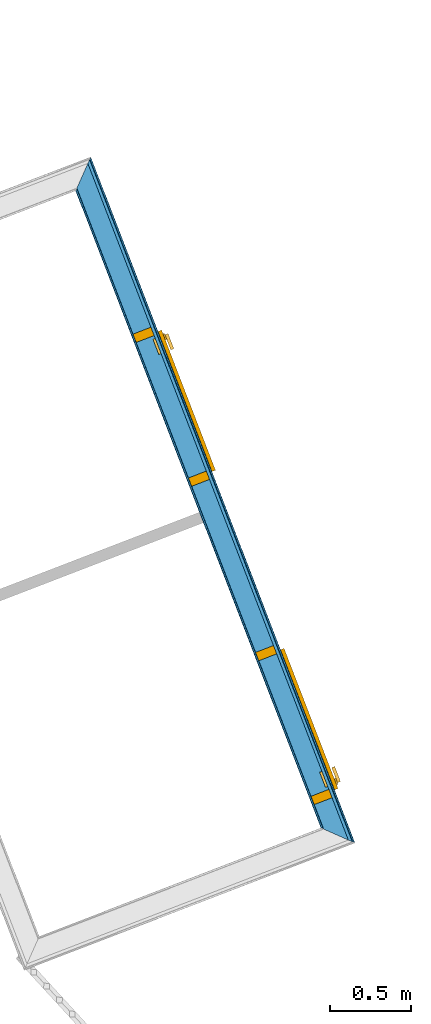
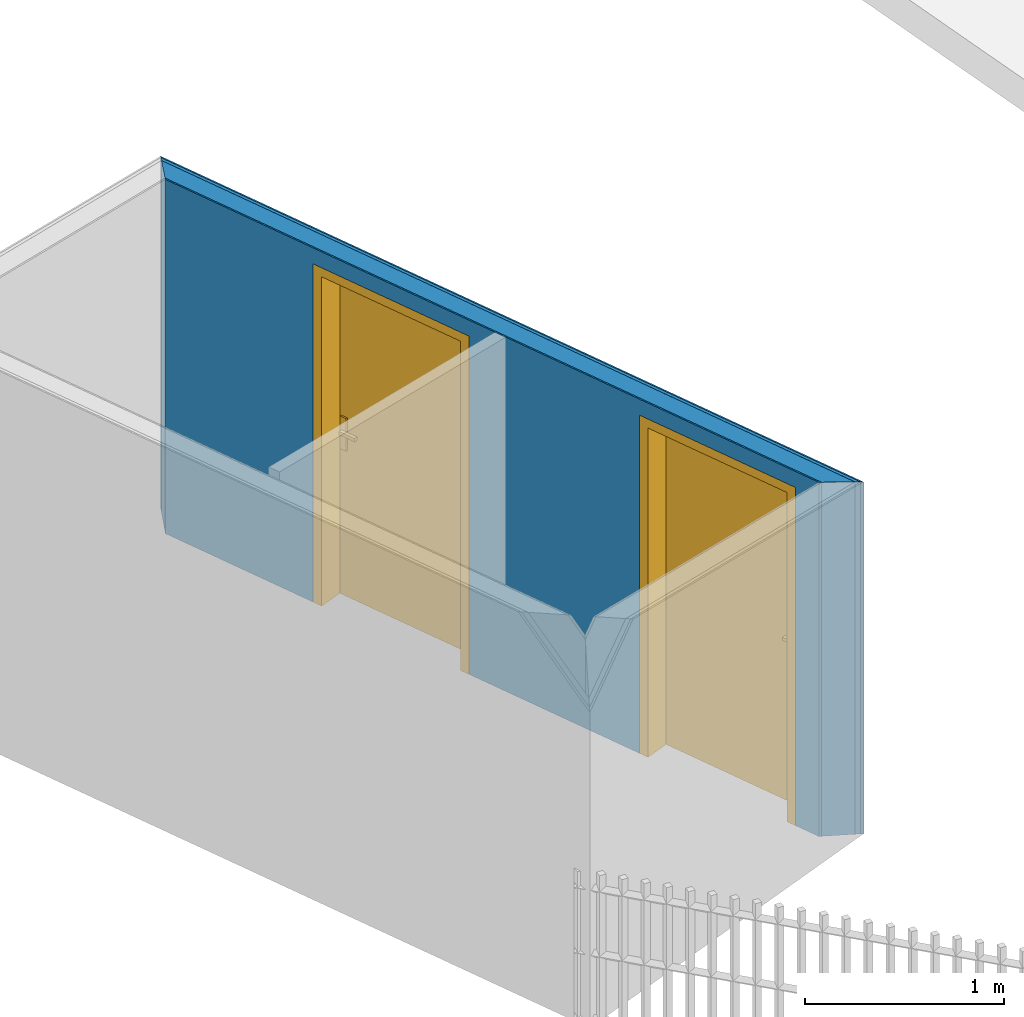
# One storey, part 117 of 195: 4 building element parts, 2 doors, 2 openings, 1 element without a shape of its own.
"""IFC2X3 building model written with IfcOpenShell, lengths in metres."""

from ifc_helpers import new_model, entity, si_unit, converted_unit, derived_unit, money_unit, direction, frame, origin_with_axes, origin_2d_with_axis, place, context, subcontext, project, spatial, polyline, rectangle, outline, extrude, boolean, faceted_brep, source, transform, mapped, material, type_object, element, fill, aggregate, save


model = new_model("IFC2X3")

# Units and contexts
model_context = context("Model", 3, precision=1e-05, world=origin_with_axes(), true_north=direction((0.0, 1.0)))
body_context = subcontext(model_context, "Body", "Model", "MODEL_VIEW")
ifc_project = project(units=[si_unit("LENGTHUNIT", "METRE"), si_unit("AREAUNIT", "SQUARE_METRE"), si_unit("VOLUMEUNIT", "CUBIC_METRE"), converted_unit("PLANEANGLEUNIT", "DEGREE", entity("IfcPlaneAngleMeasure", 0.0174532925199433), si_unit("PLANEANGLEUNIT", "RADIAN"), dimensions=[0, 0, 0, 0, 0, 0, 0]), money_unit("CHF"), converted_unit("TIMEUNIT", "Year", entity("IfcTimeMeasure", 31557600.0), si_unit("TIMEUNIT", "SECOND"), dimensions=[0, 0, 1, 0, 0, 0, 0]), si_unit("MASSUNIT", "GRAM", prefix="KILO"), si_unit("THERMODYNAMICTEMPERATUREUNIT", "DEGREE_CELSIUS"), si_unit("LUMINOUSINTENSITYUNIT", "LUMEN"), si_unit("ENERGYUNIT", "JOULE", prefix="MEGA"), derived_unit("THERMALCONDUCTANCEUNIT", [(si_unit("POWERUNIT", "WATT"), 1), (si_unit("LENGTHUNIT", "METRE"), -1), (si_unit("THERMODYNAMICTEMPERATUREUNIT", "KELVIN"), -1)]), derived_unit("SPECIFICHEATCAPACITYUNIT", [(si_unit("ENERGYUNIT", "JOULE"), 1), (si_unit("MASSUNIT", "GRAM", prefix="KILO"), -1), (si_unit("THERMODYNAMICTEMPERATUREUNIT", "KELVIN"), -1)]), derived_unit("MASSDENSITYUNIT", [(si_unit("MASSUNIT", "GRAM", prefix="KILO"), 1), (si_unit("VOLUMEUNIT", "CUBIC_METRE"), -1)])], contexts=[model_context])

# Site, building, storey
site_placement = place(None, origin_with_axes())
site = spatial("IfcSite", under=ifc_project, at=site_placement, Name="Site", CompositionType="ELEMENT")
building_placement = place(site_placement, origin_with_axes())
building = spatial("IfcBuilding", under=site, at=building_placement, Name="Bâtiment", CompositionType="ELEMENT")
storey_placement = place(building_placement, origin_with_axes())
storey = spatial("IfcBuildingStorey", under=building, at=storey_placement, Name="rdc", CompositionType="ELEMENT", Elevation=0.0)

# Door
door_style = type_object("IfcDoorStyle", Name="Porte_1v", ConstructionType="NOTDEFINED", OperationType="NOTDEFINED", ParameterTakesPrecedence=False, Sizeable=False)
shared_shape_1 = source(origin_with_axes(), body_context, "Body", "Brep", [
    faceted_brep([(0.505, 0.0, 0.0), (0.465, 0.0, 0.0), (0.465, 0.0, 2.04), (-0.465, 0.0, 2.04), (-0.465, 0.0, 0.0), (-0.505, 0.0, 0.0), (-0.505, 0.0, 2.08), (0.505, 0.0, 2.08), (0.505, -0.16, 0.0), (0.45, -0.16, 0.0), (0.45, -0.015, 0.0), (0.465, -0.015, 0.0), (0.465, -0.015, 2.04), (-0.465, -0.015, 2.04), (-0.465, -0.015, 0.0), (-0.45, -0.015, 0.0), (-0.45, -0.16, 0.0), (-0.505, -0.16, 0.0), (-0.505, -0.16, 2.08), (0.505, -0.16, 2.08), (-0.45, -0.16, 2.025), (0.45, -0.16, 2.025), (0.45, -0.015, 2.025), (-0.45, -0.015, 2.025)], [[[0, 1, 2, 3, 4, 5, 6, 7]], [[0, 8, 9, 10, 11, 1]], [[1, 11, 12, 2]], [[2, 12, 13, 3]], [[3, 13, 14, 4]], [[5, 4, 14, 15, 16, 17]], [[18, 6, 5, 17]], [[19, 7, 6, 18]], [[8, 0, 7, 19]], [[9, 8, 19, 18, 17, 16, 20, 21]], [[10, 9, 21, 22]], [[11, 10, 22, 23, 15, 14, 13, 12]], [[23, 20, 16, 15]], [[22, 21, 20, 23]]]),
    faceted_brep([(-0.4, -0.015, 0.9), (-0.44, -0.015, 0.9), (-0.44, -0.015, 1.1), (-0.4, -0.015, 1.1), (-0.4, -0.025, 0.9), (-0.44, -0.025, 0.9), (-0.44, -0.025, 1.1), (-0.4, -0.025, 1.1)], [[[0, 1, 2, 3]], [[1, 0, 4, 5]], [[2, 1, 5, 6]], [[3, 2, 6, 7]], [[0, 3, 7, 4]], [[5, 4, 7, 6]]]),
    faceted_brep([(-0.33, -0.025, 1.0), (-0.43, -0.025, 1.0), (-0.43, -0.025, 1.02), (-0.33, -0.025, 1.02), (-0.33, -0.045, 1.0), (-0.43, -0.045, 1.0), (-0.43, -0.045, 1.02), (-0.33, -0.045, 1.02)], [[[0, 1, 2, 3]], [[1, 0, 4, 5]], [[2, 1, 5, 6]], [[3, 2, 6, 7]], [[0, 3, 7, 4]], [[5, 4, 7, 6]]]),
    faceted_brep([(-0.4, 0.035, 0.9), (-0.44, 0.035, 0.9), (-0.44, 0.035, 1.1), (-0.4, 0.035, 1.1), (-0.4, 0.025, 0.9), (-0.44, 0.025, 0.9), (-0.44, 0.025, 1.1), (-0.4, 0.025, 1.1)], [[[0, 1, 2, 3]], [[1, 0, 4, 5]], [[2, 1, 5, 6]], [[3, 2, 6, 7]], [[0, 3, 7, 4]], [[5, 4, 7, 6]]]),
    faceted_brep([(-0.33, 0.05500000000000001, 1.0), (-0.43, 0.05500000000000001, 1.0), (-0.43, 0.05500000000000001, 1.02), (-0.33, 0.05500000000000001, 1.02), (-0.33, 0.035, 1.0), (-0.43, 0.035, 1.0), (-0.43, 0.035, 1.02), (-0.33, 0.035, 1.02)], [[[0, 1, 2, 3]], [[1, 0, 4, 5]], [[2, 1, 5, 6]], [[3, 2, 6, 7]], [[0, 3, 7, 4]], [[5, 4, 7, 6]]]),
    faceted_brep([(-0.465, 0.025, 0.0), (0.465, 0.025, 0.0), (0.465, -0.015, 0.0), (-0.465, -0.015, 0.0), (-0.465, 0.025, 2.04), (0.465, 0.025, 2.04), (0.465, -0.015, 2.04), (-0.465, -0.015, 2.04)], [[[0, 1, 2, 3]], [[0, 4, 5, 1]], [[1, 5, 6, 2]], [[3, 2, 6, 7]], [[4, 0, 3, 7]], [[5, 4, 7, 6]]]),
])
wall_placement = place(storey_placement, frame((9573.983056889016, -1034.756331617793, 57.7), z_axis=(0.0, 0.0, 1.0), x_axis=(0.3593252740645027, -0.9332123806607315, 0.0)))
opening_1_placement = place(wall_placement, frame((1.622741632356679, 0.0, 0.0), z_axis=(0.0, 0.0, 1.0), x_axis=(1.0, 0.0, 0.0)))
door_1_placement = place(opening_1_placement, frame((-0.4650000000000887, 0.0, 0.0), z_axis=(0.0, 0.0, 1.0), x_axis=(1.0, 0.0, 0.0)))
door_1 = element("IfcDoor", 1, at=door_1_placement, inside=storey, type_object=door_style, Name="Por-300", OverallHeight=2.04, OverallWidth=0.93, context=body_context, shape_type="MappedRepresentation", body=[
    mapped(shared_shape_1, transform((0.4649999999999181, 0.0, 0.0))),
])

shared_shape_2 = source(origin_with_axes(), body_context, "Body", "Brep", [
    faceted_brep([(-0.505, 0.0, 0.0), (-0.505, 0.0, 2.08), (0.505, 0.0, 2.08), (0.505, 0.0, 0.0), (0.465, 0.0, 0.0), (0.465, 0.0, 2.04), (-0.465, 0.0, 2.04), (-0.465, 0.0, 0.0), (-0.505, -0.16, 0.0), (-0.505, -0.16, 2.08), (0.505, -0.16, 2.08), (0.505, -0.16, 0.0), (0.45, -0.16, 0.0), (0.45, -0.015, 0.0), (0.465, -0.015, 0.0), (0.465, -0.015, 2.04), (-0.465, -0.015, 2.04), (-0.465, -0.015, 0.0), (-0.45, -0.015, 0.0), (-0.45, -0.16, 0.0), (-0.45, -0.16, 2.025), (0.45, -0.16, 2.025), (0.45, -0.015, 2.025), (-0.45, -0.015, 2.025)], [[[0, 1, 2, 3, 4, 5, 6, 7]], [[8, 9, 1, 0]], [[9, 10, 2, 1]], [[10, 11, 3, 2]], [[3, 11, 12, 13, 14, 4]], [[5, 4, 14, 15]], [[6, 5, 15, 16]], [[7, 6, 16, 17]], [[0, 7, 17, 18, 19, 8]], [[19, 20, 21, 12, 11, 10, 9, 8]], [[22, 13, 12, 21]], [[17, 16, 15, 14, 13, 22, 23, 18]], [[18, 23, 20, 19]], [[23, 22, 21, 20]]]),
    faceted_brep([(0.4, -0.015, 0.9), (0.4, -0.015, 1.1), (0.44, -0.015, 1.1), (0.44, -0.015, 0.9), (0.4, -0.025, 0.9), (0.4, -0.025, 1.1), (0.44, -0.025, 1.1), (0.44, -0.025, 0.9)], [[[0, 1, 2, 3]], [[0, 4, 5, 1]], [[1, 5, 6, 2]], [[2, 6, 7, 3]], [[3, 7, 4, 0]], [[7, 6, 5, 4]]]),
    faceted_brep([(0.33, -0.025, 1.0), (0.33, -0.025, 1.02), (0.43, -0.025, 1.02), (0.43, -0.025, 1.0), (0.33, -0.045, 1.0), (0.33, -0.045, 1.02), (0.43, -0.045, 1.02), (0.43, -0.045, 1.0)], [[[0, 1, 2, 3]], [[0, 4, 5, 1]], [[1, 5, 6, 2]], [[2, 6, 7, 3]], [[3, 7, 4, 0]], [[7, 6, 5, 4]]]),
    faceted_brep([(0.4, 0.035, 0.9), (0.4, 0.035, 1.1), (0.44, 0.035, 1.1), (0.44, 0.035, 0.9), (0.4, 0.025, 0.9), (0.4, 0.025, 1.1), (0.44, 0.025, 1.1), (0.44, 0.025, 0.9)], [[[0, 1, 2, 3]], [[0, 4, 5, 1]], [[1, 5, 6, 2]], [[2, 6, 7, 3]], [[3, 7, 4, 0]], [[7, 6, 5, 4]]]),
    faceted_brep([(0.33, 0.05500000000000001, 1.0), (0.33, 0.05500000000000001, 1.02), (0.43, 0.05500000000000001, 1.02), (0.43, 0.05500000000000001, 1.0), (0.33, 0.035, 1.0), (0.33, 0.035, 1.02), (0.43, 0.035, 1.02), (0.43, 0.035, 1.0)], [[[0, 1, 2, 3]], [[0, 4, 5, 1]], [[1, 5, 6, 2]], [[2, 6, 7, 3]], [[3, 7, 4, 0]], [[7, 6, 5, 4]]]),
    faceted_brep([(0.465, 0.025, 0.0), (0.465, -0.015, 0.0), (-0.465, -0.015, 0.0), (-0.465, 0.025, 0.0), (0.465, 0.025, 2.04), (0.465, -0.015, 2.04), (-0.465, -0.015, 2.04), (-0.465, 0.025, 2.04)], [[[0, 1, 2, 3]], [[4, 5, 1, 0]], [[1, 5, 6, 2]], [[3, 2, 6, 7]], [[0, 3, 7, 4]], [[7, 6, 5, 4]]]),
])
opening_2_placement = place(wall_placement, frame((3.73589077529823, 0.0, 0.0), z_axis=(0.0, 0.0, 1.0), x_axis=(1.0, 0.0, 0.0)))
door_2_placement = place(opening_2_placement, frame((-0.4650000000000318, 0.0, 0.0), z_axis=(0.0, 0.0, 1.0), x_axis=(1.0, 0.0, 0.0)))
door_2 = element("IfcDoor", 2, at=door_2_placement, inside=storey, type_object=door_style, Name="Por-300", OverallHeight=2.04, OverallWidth=0.93, context=body_context, shape_type="MappedRepresentation", body=[
    mapped(shared_shape_2, transform((0.4649999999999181, 0.0, 0.0))),
])

# Wall, opening
wall_type = type_object("IfcWallType", Name="1/Ossatur bois 160   non isol 160", PredefinedType="NOTDEFINED")
wall = element("IfcWall", 3, at=wall_placement, inside=storey, type_object=wall_type, Name="Mur-110")
opening_1 = element("IfcOpeningElement", 4, at=opening_1_placement, cuts=wall, Name="Por-300", context=body_context, shape_type="SweptSolid", body=[
    extrude(rectangle(XDim=1.01000001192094, YDim=2.079999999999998, at=origin_2d_with_axis()), frame((5.960487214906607e-09, -0.1599999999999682, 1.039999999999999), z_axis=(0.0, 1.0, 0.0), x_axis=(1.0, 0.0, 0.0)), (0.0, 0.0, 1.0), 0.32),
])

fill(opening_1, door_1)

# Opening
opening_2 = element("IfcOpeningElement", 5, at=opening_2_placement, cuts=wall, Name="Por-300", context=body_context, shape_type="SweptSolid", body=[
    extrude(rectangle(XDim=1.01000001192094, YDim=2.079999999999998, at=origin_2d_with_axis()), frame((-5.960430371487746e-09, -0.1599999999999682, 1.039999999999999), z_axis=(0.0, -1.0, 0.0), x_axis=(-1.0, 0.0, 0.0)), (0.0, 0.0, -1.0), 0.32),
])

fill(opening_2, door_2)

# Building element part
ifc_material_1 = material(Name="Sans Trame 296962763")
building_element_part_1_placement = place(wall_placement, origin_with_axes())
building_element_part_1 = element("IfcBuildingElementPart", 6, at=building_element_part_1_placement, material=ifc_material_1, Name="Sans Trame 296962763", context=body_context, shape_type="CSG", body=[
    boolean("DIFFERENCE", boolean("DIFFERENCE", boolean("DIFFERENCE", boolean("DIFFERENCE", extrude(outline(polyline([(0.0, -0.1599999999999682), (4.552099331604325, -0.1599999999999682), (4.552099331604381, -0.1499999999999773), (0.0, -0.1499999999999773), (0.0, -0.1599999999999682)])), origin_with_axes(), (0.0, 0.0, 1.0), 2.75), faceted_brep([(0.1500000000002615, -0.1499999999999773, 2.177348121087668), (0.1500000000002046, -0.1499999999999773, 0.0), (0.0, -0.1499999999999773, 0.0), (0.0, -0.1499999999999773, 2.75), (4.552099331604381, -0.1499999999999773, 2.75), (4.552099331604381, -0.1499999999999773, 0.0), (4.402099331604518, -0.1499999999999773, 0.0), (4.402099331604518, -0.1499999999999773, 2.177348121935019), (0.160000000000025, -0.1599999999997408, 2.17822300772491), (0.160000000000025, -0.1599999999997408, 0.0), (0.0, -0.1599999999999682, 0.0), (0.0, -0.1599999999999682, 2.75), (4.552099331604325, -0.1599999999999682, 2.75), (4.552099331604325, -0.1599999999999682, 0.0), (4.392099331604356, -0.1600000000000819, 0.0), (4.392099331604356, -0.1600000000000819, 2.178223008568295)], [[[0, 1, 2, 3, 4, 5, 6, 7]], [[1, 0, 8, 9]], [[1, 9, 10, 2]], [[3, 2, 10, 11]], [[3, 11, 12, 4]], [[12, 13, 5, 4]], [[14, 6, 5, 13]], [[7, 6, 14, 15]], [[0, 7, 15, 8]], [[15, 14, 13, 12, 11, 10, 9, 8]]])), faceted_brep([(0.03000000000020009, -0.02999999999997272, 2.166849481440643), (0.03000000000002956, -0.0300000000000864, 0.0), (0.0, -0.02999999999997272, 0.0), (0.0, -0.02999999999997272, 2.75), (4.552099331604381, -0.02999999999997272, 2.75), (4.552099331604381, -0.02999999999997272, 0.0), (4.522099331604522, -0.02999999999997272, 0.0), (4.522099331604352, -0.02999999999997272, 2.16684948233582), (0.1500000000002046, -0.1499999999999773, 2.177348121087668), (0.1500000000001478, -0.1499999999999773, 0.0), (0.0, -0.1499999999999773, 0.0), (0.0, -0.1499999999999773, 2.75), (4.552099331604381, -0.1499999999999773, 2.75), (4.552099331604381, -0.1499999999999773, 0.0), (4.402099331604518, -0.1499999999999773, 0.0), (4.402099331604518, -0.1499999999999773, 2.177348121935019)], [[[0, 1, 2, 3, 4, 5, 6, 7]], [[1, 0, 8, 9]], [[1, 9, 10, 2]], [[3, 2, 10, 11]], [[3, 11, 12, 4]], [[12, 13, 5, 4]], [[14, 6, 5, 13]], [[7, 6, 14, 15]], [[0, 7, 15, 8]], [[15, 14, 13, 12, 11, 10, 9, 8]]])), faceted_brep([(0.01000000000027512, -0.009999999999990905, 2.165099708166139), (0.01000000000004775, -0.009999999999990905, 0.0), (0.0, -0.009999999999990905, 0.0), (0.0, -0.009999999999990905, 2.75), (4.552099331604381, -0.009999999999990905, 2.75), (4.552099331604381, -0.009999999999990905, 0.0), (4.542099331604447, -0.009999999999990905, 0.0), (4.542099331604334, -0.009999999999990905, 2.165099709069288), (0.03000000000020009, -0.02999999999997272, 2.166849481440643), (0.03000000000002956, -0.0300000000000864, 0.0), (0.0, -0.02999999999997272, 0.0), (0.0, -0.02999999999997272, 2.75), (4.552099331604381, -0.02999999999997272, 2.75), (4.552099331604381, -0.02999999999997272, 0.0), (4.522099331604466, -0.02999999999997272, 0.0), (4.522099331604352, -0.02999999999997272, 2.16684948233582)], [[[0, 1, 2, 3, 4, 5, 6, 7]], [[1, 0, 8, 9]], [[1, 9, 10, 2]], [[3, 2, 10, 11]], [[3, 11, 12, 4]], [[12, 13, 5, 4]], [[14, 6, 5, 13]], [[7, 6, 14, 15]], [[0, 7, 15, 8]], [[15, 14, 13, 12, 11, 10, 9, 8]]])), faceted_brep([(4.552099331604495, 0.0, 0.0), (4.552099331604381, 0.0, 2.164224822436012), (4.552099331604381, 0.0, 2.75), (4.552099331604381, -0.009999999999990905, 2.75), (4.552099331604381, -0.009999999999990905, 0.0), (4.542099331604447, -0.009999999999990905, 0.0), (4.542099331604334, -0.009999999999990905, 2.165099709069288), (0.0, 0.0, 2.164224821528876), (0.0, 0.0, 2.75), (0.0, -0.009999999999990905, 2.75), (0.0, -0.009999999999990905, 0.0), (0.01000000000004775, -0.009999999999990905, 0.0), (0.01000000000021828, -0.009999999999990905, 2.165099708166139), (0.0, 0.0, 0.0)], [[[0, 1, 2, 3, 4]], [[1, 0, 5, 6]], [[1, 7, 8, 2]], [[8, 9, 3, 2]], [[6, 5, 4, 3, 9, 10, 11, 12]], [[5, 0, 4]], [[7, 1, 6, 12]], [[7, 13, 10, 9, 8]], [[13, 11, 10]], [[13, 7, 12, 11]]])),
])

ifc_material_2 = material(Name="Lame d'air 323202302")
building_element_part_2_placement = place(wall_placement, origin_with_axes())
building_element_part_2 = element("IfcBuildingElementPart", 7, at=building_element_part_2_placement, material=ifc_material_2, Name="Lame d'air 323202302", context=body_context, shape_type="CSG", body=[
    boolean("DIFFERENCE", boolean("DIFFERENCE", boolean("DIFFERENCE", boolean("DIFFERENCE", extrude(outline(polyline([(0.0, -0.02999999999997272), (4.552099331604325, -0.02999999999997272), (4.552099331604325, -0.009999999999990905), (0.0, -0.009999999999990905), (0.0, -0.02999999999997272)])), origin_with_axes(), (0.0, 0.0, 1.0), 2.75), faceted_brep([(0.1500000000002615, -0.1499999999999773, 2.177348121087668), (0.1500000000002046, -0.1499999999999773, 0.0), (0.0, -0.1499999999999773, 0.0), (0.0, -0.1499999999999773, 2.75), (4.552099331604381, -0.1499999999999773, 2.75), (4.552099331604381, -0.1499999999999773, 0.0), (4.402099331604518, -0.1499999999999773, 0.0), (4.402099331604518, -0.1499999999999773, 2.177348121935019), (0.160000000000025, -0.1599999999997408, 2.17822300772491), (0.160000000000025, -0.1599999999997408, 0.0), (0.0, -0.1599999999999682, 0.0), (0.0, -0.1599999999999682, 2.75), (4.552099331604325, -0.1599999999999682, 2.75), (4.552099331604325, -0.1599999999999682, 0.0), (4.392099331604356, -0.1600000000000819, 0.0), (4.392099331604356, -0.1600000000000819, 2.178223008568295)], [[[0, 1, 2, 3, 4, 5, 6, 7]], [[1, 0, 8, 9]], [[1, 9, 10, 2]], [[3, 2, 10, 11]], [[3, 11, 12, 4]], [[12, 13, 5, 4]], [[14, 6, 5, 13]], [[7, 6, 14, 15]], [[0, 7, 15, 8]], [[15, 14, 13, 12, 11, 10, 9, 8]]])), faceted_brep([(0.03000000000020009, -0.02999999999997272, 2.166849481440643), (0.03000000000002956, -0.0300000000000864, 0.0), (0.0, -0.02999999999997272, 0.0), (0.0, -0.02999999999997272, 2.75), (4.552099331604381, -0.02999999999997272, 2.75), (4.552099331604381, -0.02999999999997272, 0.0), (4.522099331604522, -0.02999999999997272, 0.0), (4.522099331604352, -0.02999999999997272, 2.16684948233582), (0.1500000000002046, -0.1499999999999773, 2.177348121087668), (0.1500000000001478, -0.1499999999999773, 0.0), (0.0, -0.1499999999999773, 0.0), (0.0, -0.1499999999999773, 2.75), (4.552099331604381, -0.1499999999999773, 2.75), (4.552099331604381, -0.1499999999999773, 0.0), (4.402099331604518, -0.1499999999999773, 0.0), (4.402099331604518, -0.1499999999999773, 2.177348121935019)], [[[0, 1, 2, 3, 4, 5, 6, 7]], [[1, 0, 8, 9]], [[1, 9, 10, 2]], [[3, 2, 10, 11]], [[3, 11, 12, 4]], [[12, 13, 5, 4]], [[14, 6, 5, 13]], [[7, 6, 14, 15]], [[0, 7, 15, 8]], [[15, 14, 13, 12, 11, 10, 9, 8]]])), faceted_brep([(0.01000000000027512, -0.009999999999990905, 2.165099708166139), (0.01000000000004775, -0.009999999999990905, 0.0), (0.0, -0.009999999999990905, 0.0), (0.0, -0.009999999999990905, 2.75), (4.552099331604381, -0.009999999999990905, 2.75), (4.552099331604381, -0.009999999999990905, 0.0), (4.542099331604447, -0.009999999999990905, 0.0), (4.542099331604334, -0.009999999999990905, 2.165099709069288), (0.03000000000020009, -0.02999999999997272, 2.166849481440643), (0.03000000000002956, -0.0300000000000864, 0.0), (0.0, -0.02999999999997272, 0.0), (0.0, -0.02999999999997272, 2.75), (4.552099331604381, -0.02999999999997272, 2.75), (4.552099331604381, -0.02999999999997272, 0.0), (4.522099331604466, -0.02999999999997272, 0.0), (4.522099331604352, -0.02999999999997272, 2.16684948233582)], [[[0, 1, 2, 3, 4, 5, 6, 7]], [[1, 0, 8, 9]], [[1, 9, 10, 2]], [[3, 2, 10, 11]], [[3, 11, 12, 4]], [[12, 13, 5, 4]], [[14, 6, 5, 13]], [[7, 6, 14, 15]], [[0, 7, 15, 8]], [[15, 14, 13, 12, 11, 10, 9, 8]]])), faceted_brep([(4.552099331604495, 0.0, 0.0), (4.552099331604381, 0.0, 2.164224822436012), (4.552099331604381, 0.0, 2.75), (4.552099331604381, -0.009999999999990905, 2.75), (4.552099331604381, -0.009999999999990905, 0.0), (4.542099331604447, -0.009999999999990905, 0.0), (4.542099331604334, -0.009999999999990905, 2.165099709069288), (0.0, 0.0, 2.164224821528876), (0.0, 0.0, 2.75), (0.0, -0.009999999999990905, 2.75), (0.0, -0.009999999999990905, 0.0), (0.01000000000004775, -0.009999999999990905, 0.0), (0.01000000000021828, -0.009999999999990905, 2.165099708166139), (0.0, 0.0, 0.0)], [[[0, 1, 2, 3, 4]], [[1, 0, 5, 6]], [[1, 7, 8, 2]], [[8, 9, 3, 2]], [[6, 5, 4, 3, 9, 10, 11, 12]], [[5, 0, 4]], [[7, 1, 6, 12]], [[7, 13, 10, 9, 8]], [[13, 11, 10]], [[13, 7, 12, 11]]])),
])

ifc_material_3 = material(Name="Lame d'air 275581439")
building_element_part_3_placement = place(wall_placement, origin_with_axes())
building_element_part_3 = element("IfcBuildingElementPart", 8, at=building_element_part_3_placement, material=ifc_material_3, Name="Lame d'air 275581439", context=body_context, shape_type="CSG", body=[
    boolean("DIFFERENCE", boolean("DIFFERENCE", boolean("DIFFERENCE", boolean("DIFFERENCE", extrude(outline(polyline([(0.0, -0.1499999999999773), (4.552099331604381, -0.1499999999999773), (4.552099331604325, -0.02999999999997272), (0.0, -0.02999999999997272), (0.0, -0.1499999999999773)])), origin_with_axes(), (0.0, 0.0, 1.0), 2.75), faceted_brep([(0.1500000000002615, -0.1499999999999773, 2.177348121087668), (0.1500000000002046, -0.1499999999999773, 0.0), (0.0, -0.1499999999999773, 0.0), (0.0, -0.1499999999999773, 2.75), (4.552099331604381, -0.1499999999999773, 2.75), (4.552099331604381, -0.1499999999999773, 0.0), (4.402099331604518, -0.1499999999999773, 0.0), (4.402099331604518, -0.1499999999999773, 2.177348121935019), (0.160000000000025, -0.1599999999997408, 2.17822300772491), (0.160000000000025, -0.1599999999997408, 0.0), (0.0, -0.1599999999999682, 0.0), (0.0, -0.1599999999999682, 2.75), (4.552099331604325, -0.1599999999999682, 2.75), (4.552099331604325, -0.1599999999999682, 0.0), (4.392099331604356, -0.1600000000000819, 0.0), (4.392099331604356, -0.1600000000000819, 2.178223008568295)], [[[0, 1, 2, 3, 4, 5, 6, 7]], [[1, 0, 8, 9]], [[1, 9, 10, 2]], [[3, 2, 10, 11]], [[3, 11, 12, 4]], [[12, 13, 5, 4]], [[14, 6, 5, 13]], [[7, 6, 14, 15]], [[0, 7, 15, 8]], [[15, 14, 13, 12, 11, 10, 9, 8]]])), faceted_brep([(0.03000000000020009, -0.02999999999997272, 2.166849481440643), (0.03000000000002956, -0.0300000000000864, 0.0), (0.0, -0.02999999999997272, 0.0), (0.0, -0.02999999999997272, 2.75), (4.552099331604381, -0.02999999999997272, 2.75), (4.552099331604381, -0.02999999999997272, 0.0), (4.522099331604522, -0.02999999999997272, 0.0), (4.522099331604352, -0.02999999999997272, 2.16684948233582), (0.1500000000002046, -0.1499999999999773, 2.177348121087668), (0.1500000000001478, -0.1499999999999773, 0.0), (0.0, -0.1499999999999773, 0.0), (0.0, -0.1499999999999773, 2.75), (4.552099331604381, -0.1499999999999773, 2.75), (4.552099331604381, -0.1499999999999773, 0.0), (4.402099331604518, -0.1499999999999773, 0.0), (4.402099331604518, -0.1499999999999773, 2.177348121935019)], [[[0, 1, 2, 3, 4, 5, 6, 7]], [[1, 0, 8, 9]], [[1, 9, 10, 2]], [[3, 2, 10, 11]], [[3, 11, 12, 4]], [[12, 13, 5, 4]], [[14, 6, 5, 13]], [[7, 6, 14, 15]], [[0, 7, 15, 8]], [[15, 14, 13, 12, 11, 10, 9, 8]]])), faceted_brep([(0.01000000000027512, -0.009999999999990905, 2.165099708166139), (0.01000000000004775, -0.009999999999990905, 0.0), (0.0, -0.009999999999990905, 0.0), (0.0, -0.009999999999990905, 2.75), (4.552099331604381, -0.009999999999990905, 2.75), (4.552099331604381, -0.009999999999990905, 0.0), (4.542099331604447, -0.009999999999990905, 0.0), (4.542099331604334, -0.009999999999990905, 2.165099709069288), (0.03000000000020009, -0.02999999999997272, 2.166849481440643), (0.03000000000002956, -0.0300000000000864, 0.0), (0.0, -0.02999999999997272, 0.0), (0.0, -0.02999999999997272, 2.75), (4.552099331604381, -0.02999999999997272, 2.75), (4.552099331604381, -0.02999999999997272, 0.0), (4.522099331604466, -0.02999999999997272, 0.0), (4.522099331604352, -0.02999999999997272, 2.16684948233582)], [[[0, 1, 2, 3, 4, 5, 6, 7]], [[1, 0, 8, 9]], [[1, 9, 10, 2]], [[3, 2, 10, 11]], [[3, 11, 12, 4]], [[12, 13, 5, 4]], [[14, 6, 5, 13]], [[7, 6, 14, 15]], [[0, 7, 15, 8]], [[15, 14, 13, 12, 11, 10, 9, 8]]])), faceted_brep([(4.552099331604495, 0.0, 0.0), (4.552099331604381, 0.0, 2.164224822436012), (4.552099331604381, 0.0, 2.75), (4.552099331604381, -0.009999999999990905, 2.75), (4.552099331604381, -0.009999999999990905, 0.0), (4.542099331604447, -0.009999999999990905, 0.0), (4.542099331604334, -0.009999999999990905, 2.165099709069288), (0.0, 0.0, 2.164224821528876), (0.0, 0.0, 2.75), (0.0, -0.009999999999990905, 2.75), (0.0, -0.009999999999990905, 0.0), (0.01000000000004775, -0.009999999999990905, 0.0), (0.01000000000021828, -0.009999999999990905, 2.165099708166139), (0.0, 0.0, 0.0)], [[[0, 1, 2, 3, 4]], [[1, 0, 5, 6]], [[1, 7, 8, 2]], [[8, 9, 3, 2]], [[6, 5, 4, 3, 9, 10, 11, 12]], [[5, 0, 4]], [[7, 1, 6, 12]], [[7, 13, 10, 9, 8]], [[13, 11, 10]], [[13, 7, 12, 11]]])),
])

ifc_material_4 = material(Name="Hachure solide 323202122")
building_element_part_4_placement = place(wall_placement, origin_with_axes())
building_element_part_4 = element("IfcBuildingElementPart", 9, at=building_element_part_4_placement, material=ifc_material_4, Name="Hachure solide 323202122", context=body_context, shape_type="CSG", body=[
    boolean("DIFFERENCE", boolean("DIFFERENCE", boolean("DIFFERENCE", boolean("DIFFERENCE", extrude(outline(polyline([(0.0, -0.009999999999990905), (4.552099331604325, -0.009999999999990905), (4.552099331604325, 0.0), (0.0, 0.0), (0.0, -0.009999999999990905)])), origin_with_axes(), (0.0, 0.0, 1.0), 2.75), faceted_brep([(0.1500000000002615, -0.1499999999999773, 2.177348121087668), (0.1500000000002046, -0.1499999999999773, 0.0), (0.0, -0.1499999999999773, 0.0), (0.0, -0.1499999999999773, 2.75), (4.552099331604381, -0.1499999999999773, 2.75), (4.552099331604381, -0.1499999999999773, 0.0), (4.402099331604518, -0.1499999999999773, 0.0), (4.402099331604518, -0.1499999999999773, 2.177348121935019), (0.160000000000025, -0.1599999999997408, 2.17822300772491), (0.160000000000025, -0.1599999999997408, 0.0), (0.0, -0.1599999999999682, 0.0), (0.0, -0.1599999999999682, 2.75), (4.552099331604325, -0.1599999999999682, 2.75), (4.552099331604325, -0.1599999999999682, 0.0), (4.392099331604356, -0.1600000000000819, 0.0), (4.392099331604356, -0.1600000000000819, 2.178223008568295)], [[[0, 1, 2, 3, 4, 5, 6, 7]], [[1, 0, 8, 9]], [[1, 9, 10, 2]], [[3, 2, 10, 11]], [[3, 11, 12, 4]], [[12, 13, 5, 4]], [[14, 6, 5, 13]], [[7, 6, 14, 15]], [[0, 7, 15, 8]], [[15, 14, 13, 12, 11, 10, 9, 8]]])), faceted_brep([(0.03000000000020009, -0.02999999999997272, 2.166849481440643), (0.03000000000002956, -0.0300000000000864, 0.0), (0.0, -0.02999999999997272, 0.0), (0.0, -0.02999999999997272, 2.75), (4.552099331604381, -0.02999999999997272, 2.75), (4.552099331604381, -0.02999999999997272, 0.0), (4.522099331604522, -0.02999999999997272, 0.0), (4.522099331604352, -0.02999999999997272, 2.16684948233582), (0.1500000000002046, -0.1499999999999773, 2.177348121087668), (0.1500000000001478, -0.1499999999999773, 0.0), (0.0, -0.1499999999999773, 0.0), (0.0, -0.1499999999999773, 2.75), (4.552099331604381, -0.1499999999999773, 2.75), (4.552099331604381, -0.1499999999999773, 0.0), (4.402099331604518, -0.1499999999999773, 0.0), (4.402099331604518, -0.1499999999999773, 2.177348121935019)], [[[0, 1, 2, 3, 4, 5, 6, 7]], [[1, 0, 8, 9]], [[1, 9, 10, 2]], [[3, 2, 10, 11]], [[3, 11, 12, 4]], [[12, 13, 5, 4]], [[14, 6, 5, 13]], [[7, 6, 14, 15]], [[0, 7, 15, 8]], [[15, 14, 13, 12, 11, 10, 9, 8]]])), faceted_brep([(0.01000000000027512, -0.009999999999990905, 2.165099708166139), (0.01000000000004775, -0.009999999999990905, 0.0), (0.0, -0.009999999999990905, 0.0), (0.0, -0.009999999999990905, 2.75), (4.552099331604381, -0.009999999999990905, 2.75), (4.552099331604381, -0.009999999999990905, 0.0), (4.542099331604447, -0.009999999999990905, 0.0), (4.542099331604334, -0.009999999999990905, 2.165099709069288), (0.03000000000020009, -0.02999999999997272, 2.166849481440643), (0.03000000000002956, -0.0300000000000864, 0.0), (0.0, -0.02999999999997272, 0.0), (0.0, -0.02999999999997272, 2.75), (4.552099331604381, -0.02999999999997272, 2.75), (4.552099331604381, -0.02999999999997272, 0.0), (4.522099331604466, -0.02999999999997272, 0.0), (4.522099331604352, -0.02999999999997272, 2.16684948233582)], [[[0, 1, 2, 3, 4, 5, 6, 7]], [[1, 0, 8, 9]], [[1, 9, 10, 2]], [[3, 2, 10, 11]], [[3, 11, 12, 4]], [[12, 13, 5, 4]], [[14, 6, 5, 13]], [[7, 6, 14, 15]], [[0, 7, 15, 8]], [[15, 14, 13, 12, 11, 10, 9, 8]]])), faceted_brep([(4.552099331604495, 0.0, 0.0), (4.552099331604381, 0.0, 2.164224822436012), (4.552099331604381, 0.0, 2.75), (4.552099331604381, -0.009999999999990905, 2.75), (4.552099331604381, -0.009999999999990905, 0.0), (4.542099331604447, -0.009999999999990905, 0.0), (4.542099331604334, -0.009999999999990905, 2.165099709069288), (0.0, 0.0, 2.164224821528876), (0.0, 0.0, 2.75), (0.0, -0.009999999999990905, 2.75), (0.0, -0.009999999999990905, 0.0), (0.01000000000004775, -0.009999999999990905, 0.0), (0.01000000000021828, -0.009999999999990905, 2.165099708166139), (0.0, 0.0, 0.0)], [[[0, 1, 2, 3, 4]], [[1, 0, 5, 6]], [[1, 7, 8, 2]], [[8, 9, 3, 2]], [[6, 5, 4, 3, 9, 10, 11, 12]], [[5, 0, 4]], [[7, 1, 6, 12]], [[7, 13, 10, 9, 8]], [[13, 11, 10]], [[13, 7, 12, 11]]])),
])

aggregate(wall, [building_element_part_1, building_element_part_2, building_element_part_3, building_element_part_4])

save(model, "model.ifc")
